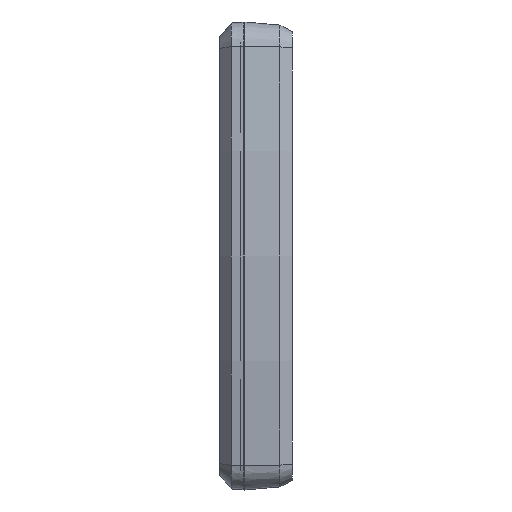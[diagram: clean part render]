
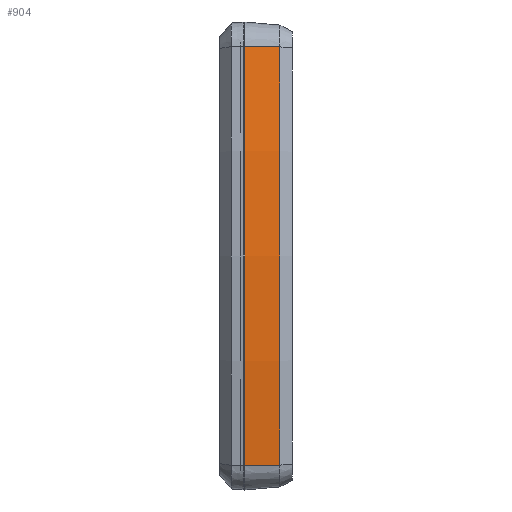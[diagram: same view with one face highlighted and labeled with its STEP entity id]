
A CAD part, left-side view. The second image highlights one B-rep face of the part: STEP entity #904.
In plain terms, the highlighted conical face has half-angle 5 degrees and reference radius 667.062 mm.
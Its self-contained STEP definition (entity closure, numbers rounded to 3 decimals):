
#904 = ADVANCED_FACE ( 'NONE', ( #12285 ), #2651, .T. ) ;
#969 = VECTOR ( 'NONE', #8390, 1000. ) ;
#992 = DIRECTION ( 'NONE',  ( 0., 0., 1. ) ) ;
#1291 = DIRECTION ( 'NONE',  ( 0., 0., 1. ) ) ;
#2190 = AXIS2_PLACEMENT_3D ( 'NONE', #10231, #6799, #1291 ) ;
#2201 = VERTEX_POINT ( 'NONE', #7333 ) ;
#2231 = DIRECTION ( 'NONE',  ( -0.086, 0.996, 0.012 ) ) ;
#2368 = CARTESIAN_POINT ( 'NONE',  ( -133.093, 0., 92.228 ) ) ;
#2651 = CONICAL_SURFACE ( 'NONE', #2190, 667.063, 0.087 ) ;
#2939 = CIRCLE ( 'NONE', #9986, 665.705 ) ;
#3536 = ORIENTED_EDGE ( 'NONE', *, *, #5842, .T. ) ;
#4533 = VECTOR ( 'NONE', #2231, 1000. ) ;
#4746 = AXIS2_PLACEMENT_3D ( 'NONE', #14893, #7950, #992 ) ;
#4801 = CARTESIAN_POINT ( 'NONE',  ( -133.093, 0., -92.228 ) ) ;
#4943 = VERTEX_POINT ( 'NONE', #2368 ) ;
#5279 = EDGE_CURVE ( 'NONE', #7422, #4943, #7270, .T. ) ;
#5818 = EDGE_LOOP ( 'NONE', ( #12473, #10865, #3536, #12816 ) ) ;
#5842 = EDGE_CURVE ( 'NONE', #9576, #4943, #7619, .T. ) ;
#6799 = DIRECTION ( 'NONE',  ( 0., 1., 0. ) ) ;
#6857 = CARTESIAN_POINT ( 'NONE',  ( -133.093, 0., 92.228 ) ) ;
#6859 = CARTESIAN_POINT ( 'NONE',  ( 527.563, -15.521, 0. ) ) ;
#7270 = CIRCLE ( 'NONE', #4746, 667.063 ) ;
#7333 = CARTESIAN_POINT ( 'NONE',  ( -131.749, -15.521, -92.041 ) ) ;
#7422 = VERTEX_POINT ( 'NONE', #8852 ) ;
#7619 = LINE ( 'NONE', #6857, #4533 ) ;
#7950 = DIRECTION ( 'NONE',  ( 0., 1., 0. ) ) ;
#8037 = DIRECTION ( 'NONE',  ( 0., 0., 1. ) ) ;
#8390 = DIRECTION ( 'NONE',  ( 0.086, -0.996, 0.012 ) ) ;
#8852 = CARTESIAN_POINT ( 'NONE',  ( -133.093, 0., -92.228 ) ) ;
#9576 = VERTEX_POINT ( 'NONE', #10620 ) ;
#9854 = LINE ( 'NONE', #4801, #969 ) ;
#9986 = AXIS2_PLACEMENT_3D ( 'NONE', #6859, #14969, #8037 ) ;
#10231 = CARTESIAN_POINT ( 'NONE',  ( 527.563, 0., 0. ) ) ;
#10593 = EDGE_CURVE ( 'NONE', #7422, #2201, #9854, .T. ) ;
#10620 = CARTESIAN_POINT ( 'NONE',  ( -131.749, -15.521, 92.041 ) ) ;
#10865 = ORIENTED_EDGE ( 'NONE', *, *, #12088, .T. ) ;
#12088 = EDGE_CURVE ( 'NONE', #2201, #9576, #2939, .T. ) ;
#12285 = FACE_OUTER_BOUND ( 'NONE', #5818, .T. ) ;
#12473 = ORIENTED_EDGE ( 'NONE', *, *, #10593, .T. ) ;
#12816 = ORIENTED_EDGE ( 'NONE', *, *, #5279, .F. ) ;
#14893 = CARTESIAN_POINT ( 'NONE',  ( 527.563, 0., 0. ) ) ;
#14969 = DIRECTION ( 'NONE',  ( 0., 1., 0. ) ) ;
